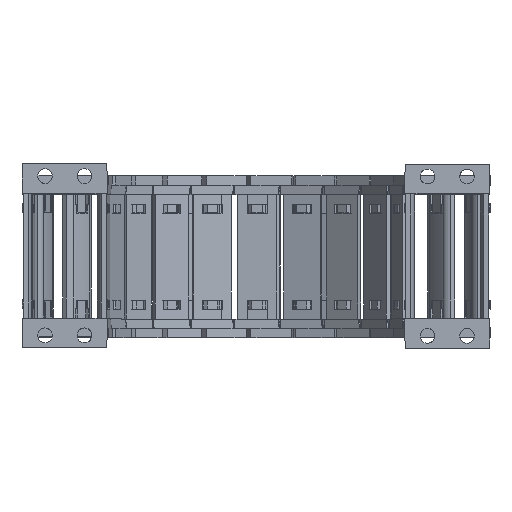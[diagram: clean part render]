
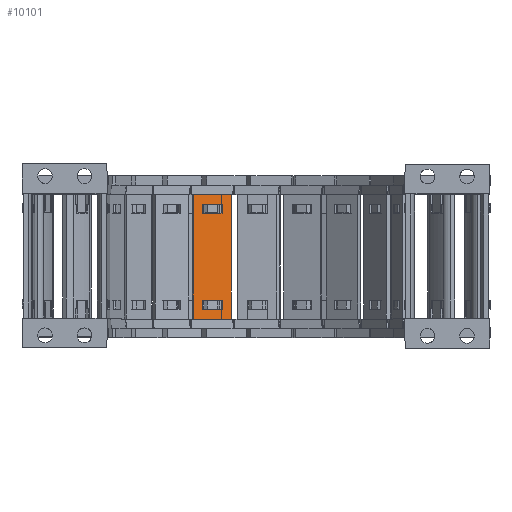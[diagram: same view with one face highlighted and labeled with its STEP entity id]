
A CAD part, top view. The second image highlights one B-rep face of the part: STEP entity #10101.
In plain terms, the highlighted planar face has unit normal (0.259, 0, 0.966).
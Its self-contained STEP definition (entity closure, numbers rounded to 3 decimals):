
#4663=FACE_BOUND('',#23383,.T.);
#4664=FACE_BOUND('',#23384,.T.);
#4665=FACE_BOUND('',#23385,.T.);
#5651=PLANE('',#121248);
#10101=ADVANCED_FACE('',(#4663,#4664,#4665),#5651,.F.);
#23383=EDGE_LOOP('',(#38223,#38224,#38225,#38226));
#23384=EDGE_LOOP('',(#38227,#38228,#38229,#38230));
#23385=EDGE_LOOP('',(#38231,#38232,#38233,#38234));
#38223=ORIENTED_EDGE('',*,*,#81626,.F.);
#38224=ORIENTED_EDGE('',*,*,#81597,.F.);
#38225=ORIENTED_EDGE('',*,*,#81631,.F.);
#38226=ORIENTED_EDGE('',*,*,#81608,.F.);
#38227=ORIENTED_EDGE('',*,*,#81643,.F.);
#38228=ORIENTED_EDGE('',*,*,#81636,.F.);
#38229=ORIENTED_EDGE('',*,*,#81675,.F.);
#38230=ORIENTED_EDGE('',*,*,#81650,.T.);
#38231=ORIENTED_EDGE('',*,*,#81673,.T.);
#38232=ORIENTED_EDGE('',*,*,#81676,.F.);
#38233=ORIENTED_EDGE('',*,*,#81677,.F.);
#38234=ORIENTED_EDGE('',*,*,#81678,.F.);
#69013=VERTEX_POINT('',#171403);
#69014=VERTEX_POINT('',#171405);
#69020=VERTEX_POINT('',#171420);
#69023=VERTEX_POINT('',#171426);
#69040=VERTEX_POINT('',#171483);
#69041=VERTEX_POINT('',#171484);
#69047=VERTEX_POINT('',#171498);
#69050=VERTEX_POINT('',#171506);
#69063=VERTEX_POINT('',#171553);
#69064=VERTEX_POINT('',#171555);
#69065=VERTEX_POINT('',#171560);
#69066=VERTEX_POINT('',#171562);
#81597=EDGE_CURVE('',#69013,#69014,#98089,.T.);
#81608=EDGE_CURVE('',#69023,#69020,#98100,.T.);
#81626=EDGE_CURVE('',#69014,#69023,#98115,.T.);
#81631=EDGE_CURVE('',#69020,#69013,#98120,.T.);
#81636=EDGE_CURVE('',#69040,#69041,#98125,.T.);
#81643=EDGE_CURVE('',#69041,#69047,#98132,.T.);
#81650=EDGE_CURVE('',#69050,#69047,#98139,.T.);
#81673=EDGE_CURVE('',#69064,#69063,#98153,.T.);
#81675=EDGE_CURVE('',#69050,#69040,#98155,.T.);
#81676=EDGE_CURVE('',#69065,#69063,#98156,.T.);
#81677=EDGE_CURVE('',#69066,#69065,#98157,.T.);
#81678=EDGE_CURVE('',#69064,#69066,#98158,.T.);
#98089=LINE('',#171404,#109721);
#98100=LINE('',#171427,#109732);
#98115=LINE('',#171462,#109747);
#98120=LINE('',#171471,#109752);
#98125=LINE('',#171482,#109757);
#98132=LINE('',#171497,#109764);
#98139=LINE('',#171510,#109771);
#98153=LINE('',#171554,#109785);
#98155=LINE('',#171558,#109787);
#98156=LINE('',#171559,#109788);
#98157=LINE('',#171561,#109789);
#98158=LINE('',#171563,#109790);
#109721=VECTOR('',#135874,1.);
#109732=VECTOR('',#135889,1.);
#109747=VECTOR('',#135924,1.);
#109752=VECTOR('',#135933,1.);
#109757=VECTOR('',#135942,1.);
#109764=VECTOR('',#135951,1.);
#109771=VECTOR('',#135960,1.);
#109785=VECTOR('',#136010,1.);
#109787=VECTOR('',#136014,1.);
#109788=VECTOR('',#136015,1.);
#109789=VECTOR('',#136016,1.);
#109790=VECTOR('',#136017,1.);
#121248=AXIS2_PLACEMENT_3D('',#171564,#136018,#136019);
#135874=DIRECTION('',(0.966,0.,-0.259));
#135889=DIRECTION('',(-0.966,0.,0.259));
#135924=DIRECTION('',(0.,1.,0.));
#135933=DIRECTION('',(0.,-1.,0.));
#135942=DIRECTION('',(-0.966,0.,0.259));
#135951=DIRECTION('',(0.,-1.,0.));
#135960=DIRECTION('',(-0.966,0.,0.259));
#136010=DIRECTION('',(0.,-1.,0.));
#136014=DIRECTION('',(0.,1.,0.));
#136015=DIRECTION('',(-0.966,0.,0.259));
#136016=DIRECTION('',(0.,-1.,0.));
#136017=DIRECTION('',(0.966,0.,-0.259));
#136018=DIRECTION('',(-0.259,0.,-0.966));
#136019=DIRECTION('',(-0.966,0.,0.259));
#171403=CARTESIAN_POINT('',(-99.114,-46.53,-76.948));
#171404=CARTESIAN_POINT('',(-99.114,-46.53,-76.948));
#171405=CARTESIAN_POINT('',(-91.242,-46.53,-79.058));
#171420=CARTESIAN_POINT('',(-99.114,-42.882,-76.948));
#171426=CARTESIAN_POINT('',(-91.242,-42.882,-79.058));
#171427=CARTESIAN_POINT('',(-91.242,-42.882,-79.058));
#171462=CARTESIAN_POINT('',(-91.242,-77.96,-79.058));
#171471=CARTESIAN_POINT('',(-99.114,-74.36,-76.948));
#171482=CARTESIAN_POINT('',(-91.242,-3.97,-79.058));
#171483=CARTESIAN_POINT('',(-91.242,-3.97,-79.058));
#171484=CARTESIAN_POINT('',(-99.114,-3.97,-76.948));
#171497=CARTESIAN_POINT('',(-99.114,-3.97,-76.948));
#171498=CARTESIAN_POINT('',(-99.114,-7.618,-76.948));
#171506=CARTESIAN_POINT('',(-91.242,-7.618,-79.058));
#171510=CARTESIAN_POINT('',(-91.242,-7.618,-79.058));
#171553=CARTESIAN_POINT('',(-102.809,-50.5,-75.959));
#171554=CARTESIAN_POINT('',(-102.809,0.,-75.959));
#171555=CARTESIAN_POINT('',(-102.809,0.,-75.959));
#171558=CARTESIAN_POINT('',(-91.242,-7.618,-79.058));
#171559=CARTESIAN_POINT('',(-87.547,-50.5,-80.048));
#171560=CARTESIAN_POINT('',(-87.547,-50.5,-80.048));
#171561=CARTESIAN_POINT('',(-87.547,0.,-80.048));
#171562=CARTESIAN_POINT('',(-87.547,0.,-80.048));
#171563=CARTESIAN_POINT('',(-102.809,0.,-75.959));
#171564=CARTESIAN_POINT('',(-85.46,31.74,-80.607));
